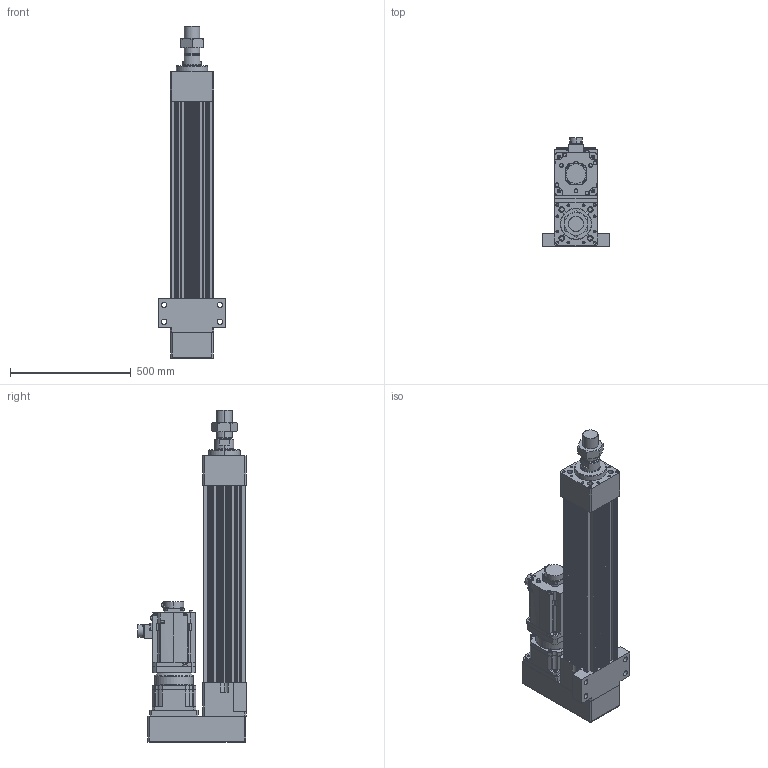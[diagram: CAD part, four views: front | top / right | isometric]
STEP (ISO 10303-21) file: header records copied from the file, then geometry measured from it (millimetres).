
FILE_DESCRIPTION (( 'STEP AP203' ), '1' );
FILE_NAME ('HES180HS-P500-W070G00-M-FFC.STEP', '2026-06-10T06:50:25', ( 'tms' ), ( '' ), 'SwSTEP 2.0', 'SolidWorks 2013', '' );
FILE_SCHEMA (( 'CONFIG_CONTROL_DESIGN' ));
Length unit declared in the file: millimetre
Products named in the file (9): AB1802; HG-SR702B; HES180-M-ROD-500; HES180-FFC-500; HES180HS-P500-W070G00-M-FFC; AB1801; HES180-P-G180; AB1803; M64X2.0P
Assembly tree (8 placements, depth 2):
  HES180HS-P500-W070G00-M-FFC
    HES180-FFC-500
    HES180-M-ROD-500
    M64X2.0P
    HES180-P-G180
    AB1801
    AB1802
    AB1803
    HG-SR702B
Bounding box: 280 x 447.1 x 1372 mm (x, y, z)
Volume: 31476887.4 mm3; surface area: 2826170.7 mm2
Topology: 5 solids, 20 shells, 1538 faces, 3985 edges, 2580 vertices
Faces by surface type: cylinder 708, plane 605, cone 158, bspline 63, torus 4
Entity records: 55722 total; most frequent: CARTESIAN_POINT 16516, DIRECTION 8271, ORIENTED_EDGE 7846, EDGE_CURVE 3947, AXIS2_PLACEMENT_3D 3115, VERTEX_POINT 2580, LINE 2041, VECTOR 2041
